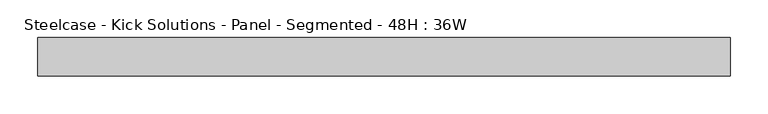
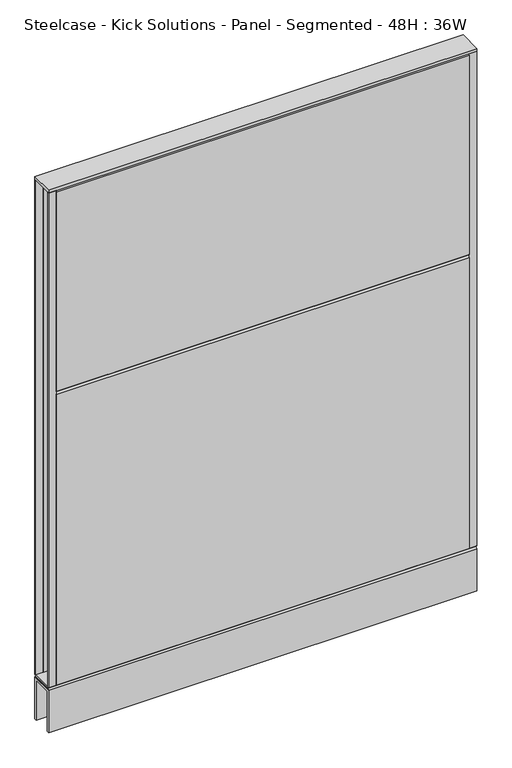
"""IFC4 building model written with IfcOpenShell, lengths in millimetres: furniture geometry, Steelcase - Kick Solutions - Panel - Segmented - 48H : 36W."""

from ifc_helpers import new_model, si_unit, frame, origin, place, context, project, spatial, polyline, outline, extrude, source, transform, mapped, element, save


def steelcase_kick_solutions_panel_segmented_48h_36w_15ab4c71(model_context):
    return source(origin(), model_context, "Body", "SweptSolid", [
        extrude(outline(polyline([(1.5e-06, 101.600003), (-3.175, 101.600003), (-3.175, 1219.2), (1.5e-06, 1216.1188448), (1.5e-06, 101.600003)])), frame((15.8749996, 0.0, 0.0), z_axis=(1.0, 0.0, 0.0), x_axis=(0.0, 1.0, 0.0)), (0.0, 0.0, 1.0), 882.6500008),
        extrude(outline(polyline([(-50.8000015, 765.0811552), (-50.8000015, 1216.1188448), (-47.625, 1219.2), (-47.625, 762.0), (-50.8000015, 765.0811552)])), frame((15.8749996, 0.0, 0.0), z_axis=(1.0, 0.0, 0.0), x_axis=(0.0, 1.0, 0.0)), (0.0, 0.0, 1.0), 882.6500008),
        extrude(outline(polyline([(-50.8000015, 101.600003), (-50.8000015, 758.9188448), (-47.625, 762.0), (-47.625, 101.600003), (-50.8000015, 101.600003)])), frame((15.8749996, 0.0, 0.0), z_axis=(1.0, 0.0, 0.0), x_axis=(0.0, 1.0, 0.0)), (0.0, 0.0, 1.0), 882.6500008),
        extrude(outline(polyline([(914.4, -3.1750015), (898.5250004, -3.1750015), (898.5250004, 0.0), (914.4, 0.0), (914.4, -3.1750015)])), frame((0.0, 0.0, 101.7169049), z_axis=(0.0, 0.0, 1.0), x_axis=(1.0, 0.0, 0.0)), (0.0, 0.0, 1.0), 1117.599997),
        extrude(outline(polyline([(15.8749996, -50.8000015), (0.0, -50.8000015), (0.0, -47.625), (15.8749996, -47.625), (15.8749996, -50.8000015)])), frame((0.0, 0.0, 101.7169049), z_axis=(0.0, 0.0, 1.0), x_axis=(1.0, 0.0, 0.0)), (0.0, 0.0, 1.0), 1117.599997),
        extrude(outline(polyline([(-50.7995075, 101.7169049), (-0.000494, 101.7169049), (-3.0583512, 98.5421458), (-47.7416503, 98.5421458), (-50.7995075, 101.7169049)])), frame((0.0, 0.0, 0.0), z_axis=(1.0, 0.0, 0.0), x_axis=(0.0, 1.0, 0.0)), (0.0, 0.0, 1.0), 914.4),
        extrude(outline(polyline([(914.4, 0.0), (914.4, -50.8000015), (0.0, -50.8000015), (0.0, 0.0), (914.4, 0.0)])), frame((0.0, 0.0, 1219.3169018), z_axis=(0.0, 0.0, 1.0), x_axis=(1.0, 0.0, 0.0)), (0.0, 0.0, 1.0), 6.35),
        extrude(outline(polyline([(15.8749996, -3.1750015), (0.0, -3.1750015), (0.0, 0.0), (15.8749996, 0.0), (15.8749996, -3.1750015)])), frame((0.0, 0.0, 101.7169049), z_axis=(0.0, 0.0, 1.0), x_axis=(1.0, 0.0, 0.0)), (0.0, 0.0, 1.0), 1117.599997),
        extrude(outline(polyline([(914.4, -50.8000015), (898.5250004, -50.8000015), (898.5250004, -47.625), (914.4, -47.625), (914.4, -50.8000015)])), frame((0.0, 0.0, 101.7169049), z_axis=(0.0, 0.0, 1.0), x_axis=(1.0, 0.0, 0.0)), (0.0, 0.0, 1.0), 1117.599997),
        extrude(outline(polyline([(-50.8000015, 95.3668927), (-47.6247484, 98.5421458), (-3.1752531, 98.5421458), (0.0, 95.3668927), (-50.8000015, 95.3668927)])), frame((0.0, 0.0, 0.0), z_axis=(1.0, 0.0, 0.0), x_axis=(0.0, 1.0, 0.0)), (0.0, 0.0, 1.0), 914.4),
        extrude(outline(polyline([(0.0, 0.0), (-5.08, 0.0), (-5.08, 90.2869018), (-45.7200015, 90.2869018), (-45.7200015, 0.0), (-50.8000015, 0.0), (-50.8000015, 95.3669018), (0.0, 95.3669018), (0.0, 0.0)])), frame((0.0, 0.0, 0.0), z_axis=(1.0, 0.0, 0.0), x_axis=(0.0, 1.0, 0.0)), (0.0, 0.0, 1.0), 914.4),
    ])


if __name__ == "__main__":
    model = new_model("IFC4")
    model_context = context("Model", 3, world=origin())
    ifc_project = project(units=[si_unit("LENGTHUNIT", "METRE", prefix="MILLI")], contexts=[model_context])
    site = spatial("IfcSite", under=ifc_project)
    building = spatial("IfcBuilding", under=site)
    placement = place(None, origin())
    steelcase_kick_solutions_panel_segmented_48h_36w_shape = steelcase_kick_solutions_panel_segmented_48h_36w_15ab4c71(model_context)
    element("IfcFurniture", 1, ObjectType="Steelcase - Kick Solutions - Panel - Segmented - 48H : 36W", at=placement, inside=building, context=model_context, shape_type="MappedRepresentation", body=[
        mapped(steelcase_kick_solutions_panel_segmented_48h_36w_shape, transform((0.0, 0.0, 0.0), x_axis=(1.0, 0.0, 0.0), y_axis=(0.0, 1.0, 0.0), z_axis=(0.0, 0.0, 1.0))),
    ])
    save(model, "model.ifc")
